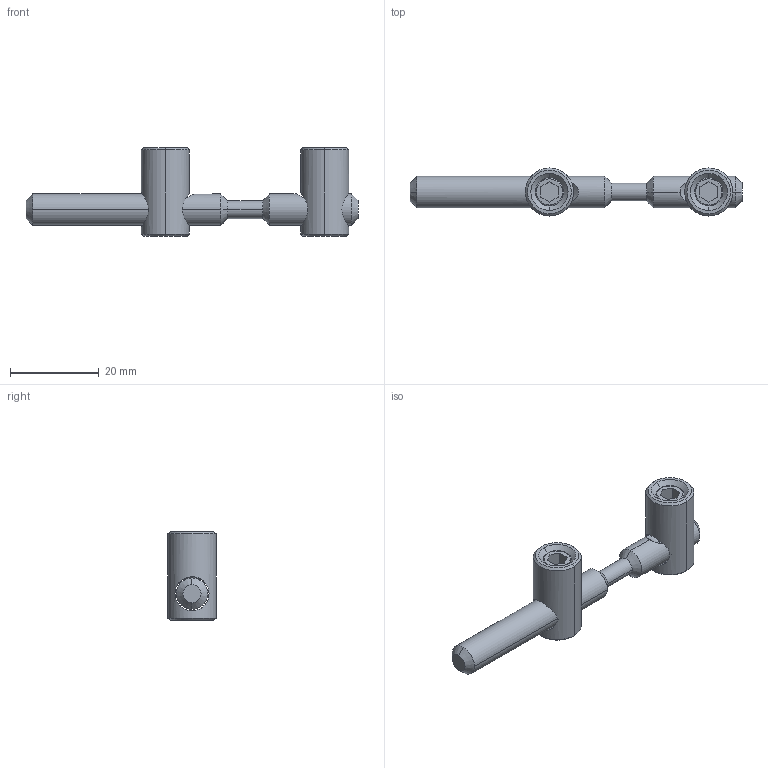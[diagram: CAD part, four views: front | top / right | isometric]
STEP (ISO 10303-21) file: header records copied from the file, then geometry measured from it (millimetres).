
FILE_DESCRIPTION (( 'STEP AP203' ), '1' );
FILE_NAME ('323042_Schnellspannverbinder Nut 8 biegbar Stirn-Stirn.step', '2021-09-13T12:15:55', ( '' ), ( '' ), 'SwSTEP 2.0', 'SolidWorks 2021', '' );
FILE_SCHEMA (( 'CONFIG_CONTROL_DESIGN' ));
Length unit declared in the file: millimetre
Products named in the file (1): 323042_Schnellspannverbinder Nut 8 biegbar Stirn-Stirn
Bounding box: 75 x 10.85 x 20 mm (x, y, z)
Volume: 5034.2 mm3; surface area: 3867.5 mm2
Topology: 1 solids, 1 shells, 86 faces, 195 edges, 120 vertices
Faces by surface type: cone 32, cylinder 28, plane 26
Entity records: 2960 total; most frequent: CARTESIAN_POINT 956, DIRECTION 405, ORIENTED_EDGE 390, EDGE_CURVE 195, AXIS2_PLACEMENT_3D 157, VERTEX_POINT 120, EDGE_LOOP 99, VECTOR 91
